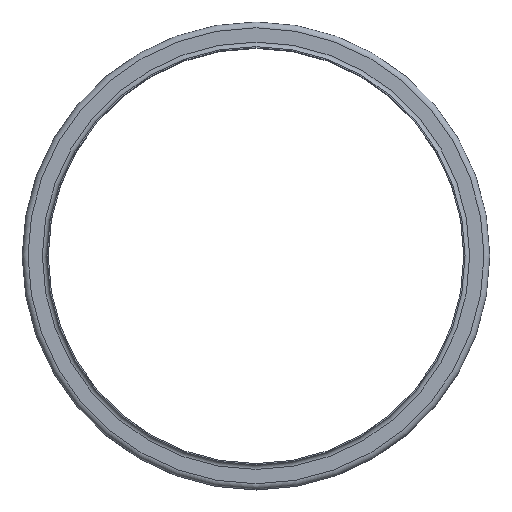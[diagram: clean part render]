
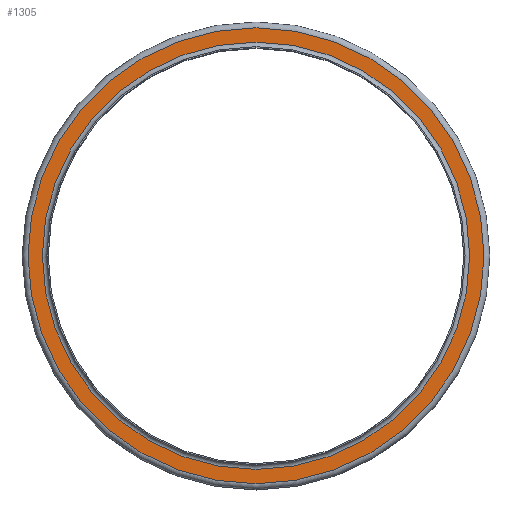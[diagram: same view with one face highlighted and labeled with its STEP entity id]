
A CAD part, top view. The second image highlights one B-rep face of the part: STEP entity #1305.
In plain terms, the highlighted planar face has unit normal (0, 0, 1).
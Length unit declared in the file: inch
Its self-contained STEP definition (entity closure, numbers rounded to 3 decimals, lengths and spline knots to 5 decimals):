
#130=FACE_BOUND('',#384,.T.);
#229=FACE_OUTER_BOUND('',#383,.T.);
#383=EDGE_LOOP('',(#1108));
#384=EDGE_LOOP('',(#1109));
#545=CIRCLE('',#1574,10.28);
#546=CIRCLE('',#1576,10.97);
#658=VERTEX_POINT('',#2470);
#659=VERTEX_POINT('',#2474);
#811=EDGE_CURVE('',#658,#658,#545,.T.);
#812=EDGE_CURVE('',#659,#659,#546,.T.);
#1108=ORIENTED_EDGE('',*,*,#812,.F.);
#1109=ORIENTED_EDGE('',*,*,#811,.T.);
#1206=PLANE('',#1575);
#1305=ADVANCED_FACE('',(#229,#130),#1206,.T.);
#1574=AXIS2_PLACEMENT_3D('',#2472,#2070,#2071);
#1575=AXIS2_PLACEMENT_3D('',#2473,#2072,#2073);
#1576=AXIS2_PLACEMENT_3D('',#2475,#2074,#2075);
#2070=DIRECTION('center_axis',(0.,0.,-1.));
#2071=DIRECTION('ref_axis',(1.,0.,0.));
#2072=DIRECTION('center_axis',(0.,0.,1.));
#2073=DIRECTION('ref_axis',(1.,0.,0.));
#2074=DIRECTION('center_axis',(0.,0.,-1.));
#2075=DIRECTION('ref_axis',(1.,0.,0.));
#2470=CARTESIAN_POINT('',(10.28,0.,-0.22));
#2472=CARTESIAN_POINT('Origin',(0.,0.,-0.22));
#2473=CARTESIAN_POINT('Origin',(0.,10.97,-0.22));
#2474=CARTESIAN_POINT('',(10.97,0.,-0.22));
#2475=CARTESIAN_POINT('Origin',(0.,0.,-0.22));
